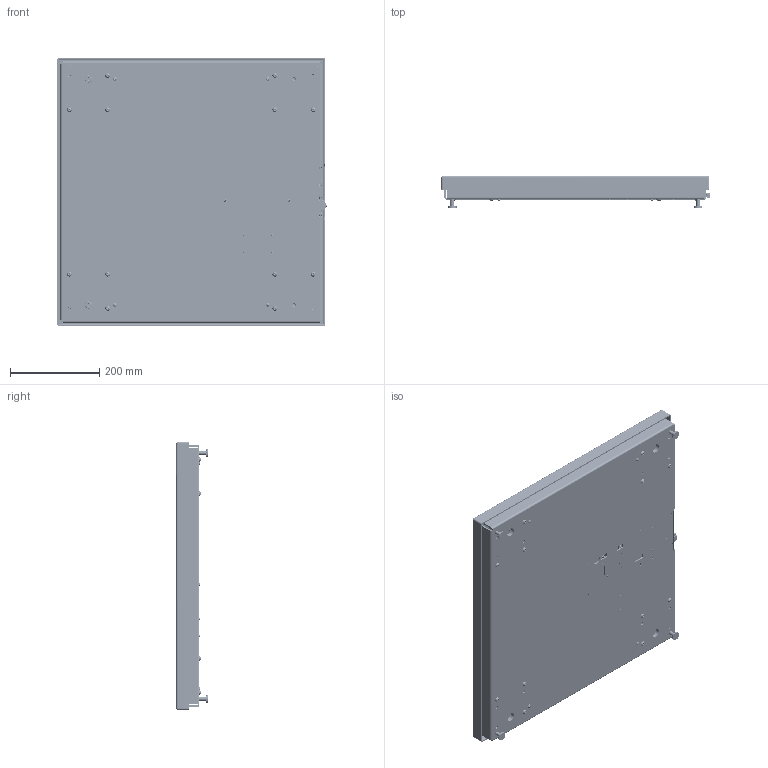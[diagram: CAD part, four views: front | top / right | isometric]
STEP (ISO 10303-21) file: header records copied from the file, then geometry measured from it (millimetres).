
FILE_DESCRIPTION (( 'STEP AP214' ), '1' );
FILE_NAME ('E-SCALE-6500PB-2424-1300.STEP', '2019-08-27T23:26:39', ( '' ), ( '' ), 'SwSTEP 2.0', 'SolidWorks 2017', '' );
FILE_SCHEMA (( 'AUTOMOTIVE_DESIGN' ));
Length unit declared in the file: millimetre
Products named in the file (71): 0077452; 0509-0542-01-0; 0075232_80-001903; 0075200_93505A451; 2817-0272-0_90402A146; Phoenix 1778609; 2813-0155-0_93475A195; socket button head cap screw_am_B18.3.4M - 6 x 1.0 x 20 SBHCS --N-A2.70; pan cross head_am_B18.6.7M - M2 x 0.4 x 8 Type I Cross Recessed PHMS --8N; E-SCALE-6500PB-2424-1300; 0075172_A7; 0530-0853-01-0; pan head cross recess screw_din_DIN EN ISO 7045 - M2.5 x 12 - Z - 12N; 0534-0564-01-0; 2815-0179-0_91780A166; 0074533; 2815-0178-0_92710A203; 0509-0543-01-0; 0075230_91780A198; 2814-T011_90631A005; 0530-0856-01-0; Wire Jumper_0.15 Inch Pitch; 0018546; 6032-0086-06-0; thru-hole standoff_pmi_PEM SO-440-4 ZI--N; curved spring lock washer_din_Spring washer DIN 128 - A2; 0074904; flat washer type a selected narrow_ai_Selected Narrow FW 0.125; 0075287_C2 CHIP; pan cross head_ai_CR-PHMS 0.112-40x0.3125x0.3125-N; 2143-T013; 0514-0241-01-0_Rev A; Phoenix_1754465; 2143-T004; socket head cap screw_am_B18.3.1M - 8 x 1.25 x 20 Hex SHCS -- 20NHX-A2.70; Phoenix_1803646; 0075294; 0074915_Modified By Hardy_Default<As Machined>; 0075309; 0075173_B7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
Assembly tree (133 placements, depth 4):
  E-SCALE-6500PB-2424-1300
    0074904
      0074915_Modified By Hardy_Default<As Machined>
      0074918  x4
      0078239
    0075309
    0075175_84-001611  x4
      0075172_A7
      0075174_7
      0075173_B7
    machine screw nut hex_ai_MSHXNUT 0.3125-18-D-N  x4
    0074757_Modified By Hardy
    0075198  x4
    0075200_93505A451  x4
    0075290
      0075233
      0018546  x4
      0075287_C2 CHIP
      0075295  x4
        0075294
        0075293
    pan cross head_ai_CR-PHMS 0.164-32x0.3125x0.3125-N-A2.70  x4
    0074533  x4
      0074532
      socket head cap screw_am_B18.3.1M - 8 x 1.25 x 20 Hex SHCS -- 20NHX-A2.70
      0074531
      0077452
    0075231_PBSH-600kg 600 X 600  x4
      0075230_91780A198
      0075232_80-001903
      flat head screw_ai_CR-FHMS 0.164-32x0.875x0.875-N-A2.70
      pan cross head_ai_CR-PHMS 0.164-32x0.3125x0.3125-N-A2.70
    socket button head cap screw_am_B18.3.4M - 6 x 1.0 x 20 SBHCS --N-A2.70  x12
    2814-0098-0_90633A007  x2
    2817-0272-0_90402A146
    2143-T004  x2
    2143-T013
    flat washer type a selected narrow_ai_Selected Narrow FW 0.125  x3
    2814-T011_90631A005
    6500 EIP Complete Board With Connectors
      0534-0564-01-0
      Phoenix 1778609
      Phoenix_1754452
      Chassis fastener Winchester Electronics A1591B  x2
      Phoenix_1803316
      Tyco_c-1-6605752-1-d-3d
      USB Connector Female
      Phoenix_1803345
      Phoenix_1754465
      Phoenix_1803617
      Phoenix_1803646
    2815-0179-0_91780A166  x2
    pan cross head_ai_CR-PHMS 0.112-40x0.3125x0.3125-N  x4
    0514-0241-01-0_Rev A
    0509-0542-01-0
    pan cross head_am_B18.6.7M - M2 x 0.4 x 8 Type I Cross Recessed PHMS --8N  x2
    2813-0155-0_93475A195  x2
    curved spring lock washer_din_Spring washer DIN 128 - A2  x2
    hex nut style 1_am_B18.2.4.1M - Hex nut, Style 1,  M2 x 0.4 --D-N  x2
    2140-0128-0
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Bounding box: 603.77 x 71.16 x 600 mm (x, y, z)
Volume: 3268839.6 mm3; surface area: 2066349.6 mm2
Topology: 691 solids, 691 shells, 20789 faces, 53363 edges, 34607 vertices
Faces by surface type: plane 10937, bspline 5160, cylinder 3318, cone 1100, torus 204, sphere 70
Entity records: 709815 total; most frequent: CARTESIAN_POINT 190581, ORIENTED_EDGE 88704, DIRECTION 61188, EDGE_CURVE 44352, VERTEX_POINT 29093, VECTOR 27898, LINE 27898, EDGE_LOOP 18453
